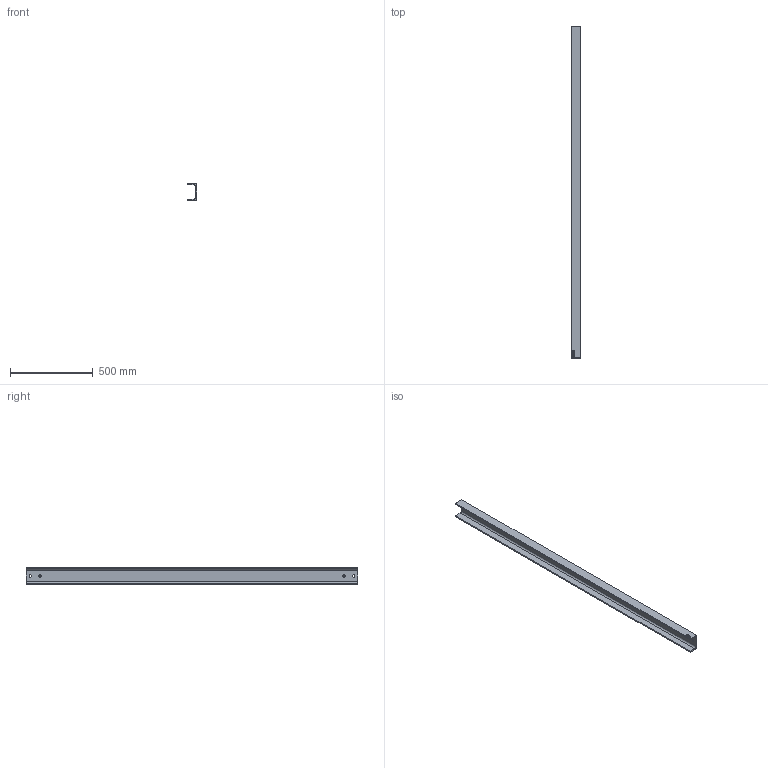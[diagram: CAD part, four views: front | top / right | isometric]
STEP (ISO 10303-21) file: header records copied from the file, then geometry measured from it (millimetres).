
FILE_DESCRIPTION (( 'STEP AP214' ), '1' );
FILE_NAME ('CCJ029-REP.028 - POUTRE INTERMEDIAIRE B5-C5.STEP', '2024-01-31T08:58:37', ( '' ), ( '' ), 'SwSTEP 2.0', 'SolidWorks 2021', '' );
FILE_SCHEMA (( 'AUTOMOTIVE_DESIGN' ));
Length unit declared in the file: millimetre
Products named in the file (1): CCJ029-REP.028 - POUTRE INTERMEDIAIRE B5-C5
Bounding box: 55 x 2010 x 100 mm (x, y, z)
Volume: 2510492.6 mm3; surface area: 811033.2 mm2
Topology: 1 solids, 1 shells, 64 faces, 168 edges, 112 vertices
Faces by surface type: bspline 32, plane 22, cylinder 10
Entity records: 4018 total; most frequent: CARTESIAN_POINT 2585, ORIENTED_EDGE 336, DIRECTION 190, EDGE_CURVE 168, VERTEX_POINT 112, VECTOR 84, LINE 84, EDGE_LOOP 78
